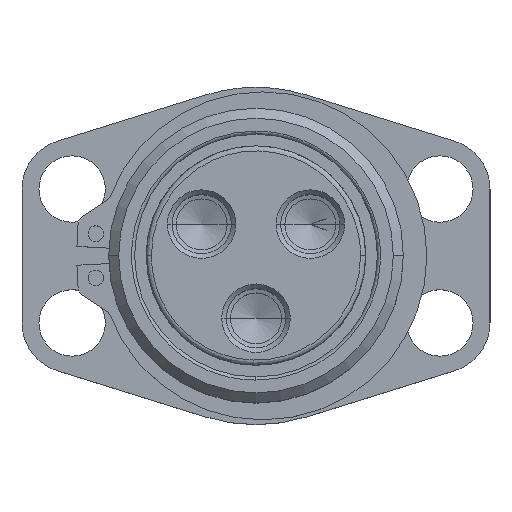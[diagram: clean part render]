
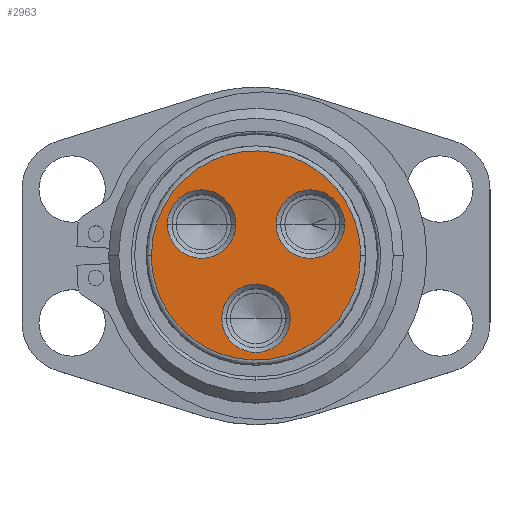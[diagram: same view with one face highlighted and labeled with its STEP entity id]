
A CAD part, top view. The second image highlights one B-rep face of the part: STEP entity #2963.
In plain terms, the highlighted planar face has unit normal (0, 0, 1).
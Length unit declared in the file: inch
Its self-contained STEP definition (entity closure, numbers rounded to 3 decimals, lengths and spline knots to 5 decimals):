
#45 = CARTESIAN_POINT ( 'NONE',  ( -0.43301, 0.25, 0. ) ) ;
#209 = DIRECTION ( 'NONE',  ( 1., 0., 0. ) ) ;
#261 = CARTESIAN_POINT ( 'NONE',  ( 0.8341, -1.6682, 0. ) ) ;
#303 = CARTESIAN_POINT ( 'NONE',  ( 0.8341, 1.6682, 0. ) ) ;
#307 = CARTESIAN_POINT ( 'NONE',  ( -0.8341, 0., 0. ) ) ;
#528 = EDGE_LOOP ( 'NONE', ( #3292, #3685 ) ) ;
#730 = FACE_BOUND ( 'NONE', #3270, .T. ) ;
#737 = CARTESIAN_POINT ( 'NONE',  ( 0.2731, -0.5, 0. ) ) ;
#799 = EDGE_CURVE ( 'NONE', #2845, #4464, #3675, .T. ) ;
#853 = ORIENTED_EDGE ( 'NONE', *, *, #4279, .T. ) ;
#949 = VERTEX_POINT ( 'NONE', #4341 ) ;
#1003 = DIRECTION ( 'NONE',  ( 0., 0., -1. ) ) ;
#1093 = CARTESIAN_POINT ( 'NONE',  ( 0.70611, 0.25, 0. ) ) ;
#1108 = DIRECTION ( 'NONE',  ( 1., 0., 0. ) ) ;
#1131 = PLANE ( 'NONE',  #2178 ) ;
#1178 = EDGE_CURVE ( 'NONE', #4464, #2845, #5515, .T. ) ;
#1221 = ORIENTED_EDGE ( 'NONE', *, *, #5685, .T. ) ;
#1257 = DIRECTION ( 'NONE',  ( 0., 0., -1. ) ) ;
#1281 = FACE_BOUND ( 'NONE', #1749, .T. ) ;
#1572 = CARTESIAN_POINT ( 'NONE',  ( -0.2731, -0.5, 0. ) ) ;
#1612 = CARTESIAN_POINT ( 'NONE',  ( 0.43301, 0.25, 0. ) ) ;
#1749 = EDGE_LOOP ( 'NONE', ( #3923, #853 ) ) ;
#1850 = VERTEX_POINT ( 'NONE', #3690 ) ;
#2075 = CARTESIAN_POINT ( 'NONE',  ( 0.8341, 0., 0. ) ) ;
#2083 = DIRECTION ( 'NONE',  ( 0., 0., -1. ) ) ;
#2144 = DIRECTION ( 'NONE',  ( 1., 0., 0. ) ) ;
#2178 = AXIS2_PLACEMENT_3D ( 'NONE', #4829, #3435, #1108 ) ;
#2352 = ORIENTED_EDGE ( 'NONE', *, *, #1178, .T. ) ;
#2365 = CIRCLE ( 'NONE', #4968, 0.2731 ) ;
#2488 = EDGE_CURVE ( 'NONE', #949, #1850, #3594, .T. ) ;
#2495 = DIRECTION ( 'NONE',  ( 1., 0., 0. ) ) ;
#2622 = CIRCLE ( 'NONE', #4400, 0.2731 ) ;
#2777 = VERTEX_POINT ( 'NONE', #737 ) ;
#2794 = EDGE_LOOP ( 'NONE', ( #4374, #1221 ) ) ;
#2845 = VERTEX_POINT ( 'NONE', #4942 ) ;
#2867 =( BOUNDED_CURVE ( )  B_SPLINE_CURVE ( 3, ( #2075, #261, #3497, #307 ),
 .UNSPECIFIED., .F., .F. ) 
 B_SPLINE_CURVE_WITH_KNOTS ( ( 4, 4 ),
 ( 0., 1. ),
 .UNSPECIFIED. ) 
 CURVE ( )  GEOMETRIC_REPRESENTATION_ITEM ( )  RATIONAL_B_SPLINE_CURVE ( ( 1., 0.333, 0.333, 1. ) ) 
 REPRESENTATION_ITEM ( '' )  );
#2915 = VERTEX_POINT ( 'NONE', #5229 ) ;
#2963 = ADVANCED_FACE ( 'NONE', ( #4199, #3762, #1281, #730 ), #1131, .T. ) ;
#3047 = CARTESIAN_POINT ( 'NONE',  ( -0.70611, 0.25, 0. ) ) ;
#3270 = EDGE_LOOP ( 'NONE', ( #4489, #2352 ) ) ;
#3287 = DIRECTION ( 'NONE',  ( 1., 0., 0. ) ) ;
#3292 = ORIENTED_EDGE ( 'NONE', *, *, #2488, .F. ) ;
#3298 = AXIS2_PLACEMENT_3D ( 'NONE', #4855, #3498, #2144 ) ;
#3427 = AXIS2_PLACEMENT_3D ( 'NONE', #45, #4231, #3287 ) ;
#3435 = DIRECTION ( 'NONE',  ( 0., 0., 1. ) ) ;
#3497 = CARTESIAN_POINT ( 'NONE',  ( -0.8341, -1.6682, 0. ) ) ;
#3498 = DIRECTION ( 'NONE',  ( 0., 0., -1. ) ) ;
#3512 = EDGE_CURVE ( 'NONE', #5466, #2915, #2365, .T. ) ;
#3594 =( BOUNDED_CURVE ( )  B_SPLINE_CURVE ( 3, ( #4894, #5816, #303, #3992 ),
 .UNSPECIFIED., .F., .F. ) 
 B_SPLINE_CURVE_WITH_KNOTS ( ( 4, 4 ),
 ( 0., 1. ),
 .UNSPECIFIED. ) 
 CURVE ( )  GEOMETRIC_REPRESENTATION_ITEM ( )  RATIONAL_B_SPLINE_CURVE ( ( 1., 0.333, 0.333, 1. ) ) 
 REPRESENTATION_ITEM ( '' )  );
#3675 = CIRCLE ( 'NONE', #3298, 0.2731 ) ;
#3685 = ORIENTED_EDGE ( 'NONE', *, *, #4921, .F. ) ;
#3690 = CARTESIAN_POINT ( 'NONE',  ( 0.8341, 0., 0. ) ) ;
#3762 = FACE_BOUND ( 'NONE', #2794, .T. ) ;
#3923 = ORIENTED_EDGE ( 'NONE', *, *, #3512, .T. ) ;
#3992 = CARTESIAN_POINT ( 'NONE',  ( 0.8341, 0., 0. ) ) ;
#4051 = CARTESIAN_POINT ( 'NONE',  ( 0., -0.5, 0. ) ) ;
#4199 = FACE_OUTER_BOUND ( 'NONE', #528, .T. ) ;
#4231 = DIRECTION ( 'NONE',  ( 0., 0., -1. ) ) ;
#4279 = EDGE_CURVE ( 'NONE', #2915, #5466, #2622, .T. ) ;
#4326 = CARTESIAN_POINT ( 'NONE',  ( 0., -0.5, 0. ) ) ;
#4341 = CARTESIAN_POINT ( 'NONE',  ( -0.8341, 0., 0. ) ) ;
#4350 = DIRECTION ( 'NONE',  ( 0., 0., -1. ) ) ;
#4374 = ORIENTED_EDGE ( 'NONE', *, *, #4759, .T. ) ;
#4400 = AXIS2_PLACEMENT_3D ( 'NONE', #1612, #2083, #209 ) ;
#4464 = VERTEX_POINT ( 'NONE', #3047 ) ;
#4489 = ORIENTED_EDGE ( 'NONE', *, *, #799, .T. ) ;
#4497 = DIRECTION ( 'NONE',  ( 1., 0., 0. ) ) ;
#4503 = AXIS2_PLACEMENT_3D ( 'NONE', #4326, #4350, #2495 ) ;
#4759 = EDGE_CURVE ( 'NONE', #2777, #5430, #4919, .T. ) ;
#4829 = CARTESIAN_POINT ( 'NONE',  ( 0., 0., 0. ) ) ;
#4855 = CARTESIAN_POINT ( 'NONE',  ( -0.43301, 0.25, 0. ) ) ;
#4894 = CARTESIAN_POINT ( 'NONE',  ( -0.8341, 0., 0. ) ) ;
#4919 = CIRCLE ( 'NONE', #4503, 0.2731 ) ;
#4921 = EDGE_CURVE ( 'NONE', #1850, #949, #2867, .T. ) ;
#4942 = CARTESIAN_POINT ( 'NONE',  ( -0.15991, 0.25, 0. ) ) ;
#4968 = AXIS2_PLACEMENT_3D ( 'NONE', #5191, #1003, #5170 ) ;
#5013 = AXIS2_PLACEMENT_3D ( 'NONE', #4051, #1257, #4497 ) ;
#5170 = DIRECTION ( 'NONE',  ( 1., 0., 0. ) ) ;
#5191 = CARTESIAN_POINT ( 'NONE',  ( 0.43301, 0.25, 0. ) ) ;
#5229 = CARTESIAN_POINT ( 'NONE',  ( 0.15991, 0.25, 0. ) ) ;
#5374 = CIRCLE ( 'NONE', #5013, 0.2731 ) ;
#5430 = VERTEX_POINT ( 'NONE', #1572 ) ;
#5466 = VERTEX_POINT ( 'NONE', #1093 ) ;
#5515 = CIRCLE ( 'NONE', #3427, 0.2731 ) ;
#5685 = EDGE_CURVE ( 'NONE', #5430, #2777, #5374, .T. ) ;
#5816 = CARTESIAN_POINT ( 'NONE',  ( -0.8341, 1.6682, 0. ) ) ;
